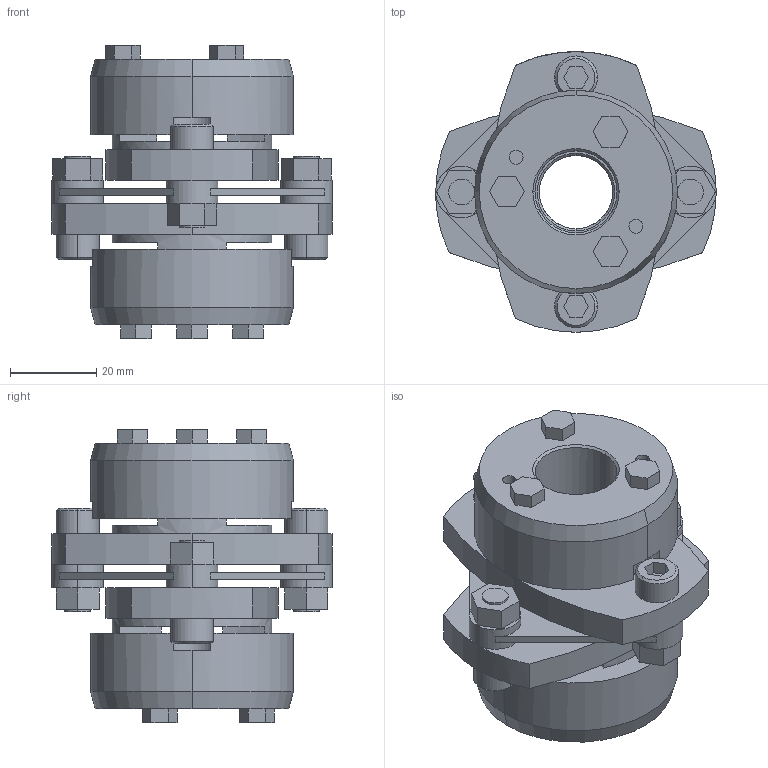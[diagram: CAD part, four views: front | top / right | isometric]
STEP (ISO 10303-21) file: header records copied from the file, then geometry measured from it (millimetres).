
FILE_DESCRIPTION((''),'2;1');
FILE_NAME('LCS-65T7-17×19.stp','2011-08-23T13:20:49',(''),(''),'AutoCAD STEP 2000i','AutoCAD 2000i',', , ');
FILE_SCHEMA(('CONFIG_CONTROL_DESIGN'));
Length unit declared in the file: millimetre
Products named in the file (8): LCS-65T7-17×19; 忣兜1; LC65T7-T019; LC65T7-T017-1; LC65T7-T017; LC65T7-T015-1; LC65T7-T015; LCS65-ITA
Assembly tree (7 placements, depth 2):
  LCS-65T7-17×19
    忣兜1
    LC65T7-T019
    LC65T7-T017-1
    LC65T7-T017
    LC65T7-T015-1
    LC65T7-T015
    LCS65-ITA
Bounding box: 65 x 65 x 67.9 mm (x, y, z)
Volume: 91354.7 mm3; surface area: 30083.4 mm2
Topology: 1 solids, 1 shells, 228 faces, 586 edges, 382 vertices
Faces by surface type: plane 136, cylinder 72, cone 20
Entity records: 7181 total; most frequent: DIRECTION 1268, CARTESIAN_POINT 1204, ORIENTED_EDGE 1172, EDGE_CURVE 586, AXIS2_PLACEMENT_3D 446, VERTEX_POINT 382, VECTOR 376, LINE 376
